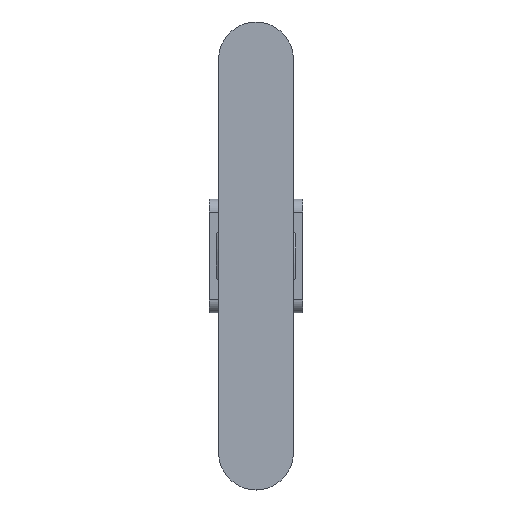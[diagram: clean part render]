
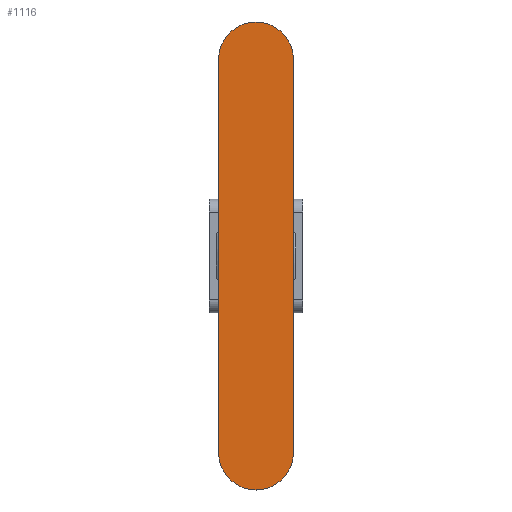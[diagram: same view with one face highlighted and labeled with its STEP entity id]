
A CAD part, front view. The second image highlights one B-rep face of the part: STEP entity #1116.
In plain terms, the highlighted planar face has unit normal (0, -1, 0).
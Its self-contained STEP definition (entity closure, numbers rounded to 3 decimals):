
#133 = CARTESIAN_POINT ( 'NONE',  ( -42., 0., 0. ) ) ;
#134 = DIRECTION ( 'NONE',  ( 0., 1., 0. ) ) ;
#135 = DIRECTION ( 'NONE',  ( 0., 0., -1. ) ) ;
#176 = LINE ( 'NONE', #177, #1013 ) ;
#177 = CARTESIAN_POINT ( 'NONE',  ( 42., 0., 8. ) ) ;
#178 = DIRECTION ( 'NONE',  ( 1., 0., 0. ) ) ;
#186 = CARTESIAN_POINT ( 'NONE',  ( -42., 0., -8. ) ) ;
#187 = CARTESIAN_POINT ( 'NONE',  ( 42., 0., 0. ) ) ;
#188 = DIRECTION ( 'NONE',  ( 0., 1., 0. ) ) ;
#189 = DIRECTION ( 'NONE',  ( 0., 0., -1. ) ) ;
#190 = LINE ( 'NONE', #186, #1015 ) ;
#195 = DIRECTION ( 'NONE',  ( -1., 0., 0. ) ) ;
#396 = CARTESIAN_POINT ( 'NONE',  ( 42., 0., 8. ) ) ;
#399 = CARTESIAN_POINT ( 'NONE',  ( 42., 0., -8. ) ) ;
#544 = CARTESIAN_POINT ( 'NONE',  ( -42., 0., 8. ) ) ;
#563 = CARTESIAN_POINT ( 'NONE',  ( -42., 0., -8. ) ) ;
#593 = EDGE_CURVE ( 'NONE', #2559, #2172, #176, .T. ) ;
#596 = EDGE_CURVE ( 'NONE', #2172, #2175, #944, .T. ) ;
#599 = EDGE_CURVE ( 'NONE', #2175, #2565, #190, .T. ) ;
#841 = ORIENTED_EDGE ( 'NONE', *, *, #599, .F. ) ;
#878 = ORIENTED_EDGE ( 'NONE', *, *, #593, .F. ) ;
#891 = ORIENTED_EDGE ( 'NONE', *, *, #596, .F. ) ;
#894 = ORIENTED_EDGE ( 'NONE', *, *, #2090, .F. ) ;
#944 = CIRCLE ( 'NONE', #1016, 8. ) ;
#1013 = VECTOR ( 'NONE', #178, 1000. ) ;
#1015 = VECTOR ( 'NONE', #195, 1000. ) ;
#1016 = AXIS2_PLACEMENT_3D ( 'NONE', #187, #188, #189 ) ;
#1116 = ADVANCED_FACE ( 'NONE', ( #1726 ), #1727, .T. ) ;
#1726 = FACE_OUTER_BOUND ( 'NONE', #2028, .T. ) ;
#1727 = PLANE ( 'NONE',  #2599 ) ;
#1729 = CARTESIAN_POINT ( 'NONE',  ( -42., 0., 0. ) ) ;
#1730 = DIRECTION ( 'NONE',  ( 0., -1., 0. ) ) ;
#1731 = DIRECTION ( 'NONE',  ( 0., 0., -1. ) ) ;
#1852 = CIRCLE ( 'NONE', #1872, 8. ) ;
#1872 = AXIS2_PLACEMENT_3D ( 'NONE', #133, #134, #135 ) ;
#2028 = EDGE_LOOP ( 'NONE', ( #894, #841, #891, #878 ) ) ;
#2090 = EDGE_CURVE ( 'NONE', #2565, #2559, #1852, .T. ) ;
#2172 = VERTEX_POINT ( 'NONE', #396 ) ;
#2175 = VERTEX_POINT ( 'NONE', #399 ) ;
#2559 = VERTEX_POINT ( 'NONE', #544 ) ;
#2565 = VERTEX_POINT ( 'NONE', #563 ) ;
#2599 = AXIS2_PLACEMENT_3D ( 'NONE', #1729, #1730, #1731 ) ;
